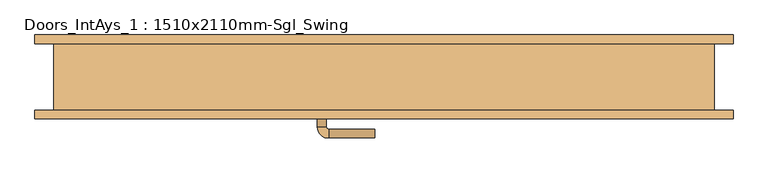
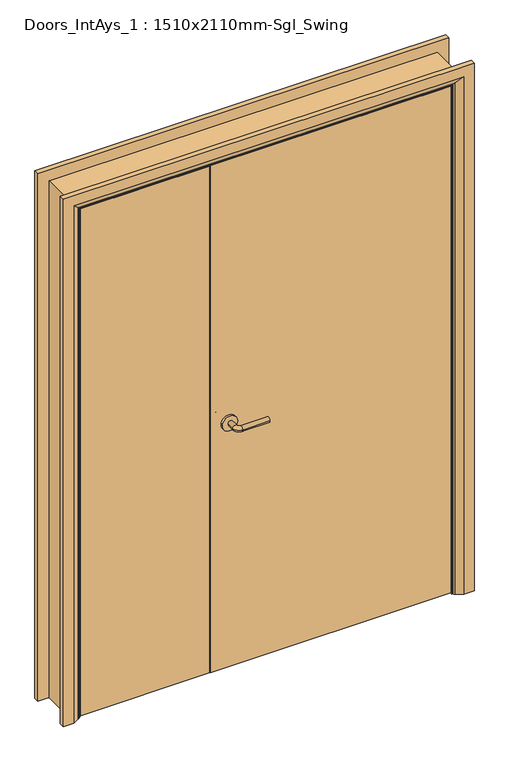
"""IFC4 building model written with IfcOpenShell, lengths in millimetres: door geometry, Doors_IntAys_1 : 1510x2110mm-Sgl_Swing."""

from ifc_helpers import new_model, si_unit, point, frame, frame_2d, origin, place, context, project, spatial, polyline, circle_curve, ellipse_curve, trimmed, segment, composite_curve, outline, extrude, faceted_brep, source, transform, mapped, element, save
from ifc_brep_helpers import plane_surface, cylinder_surface, revolved_surface, advanced_brep


def doors_intays_1_1510x2110mm_sgl_swing_36e02ed7(model_context):
    return source(origin(), model_context, "Body", "SolidModel", [
        advanced_brep(
        [(238.5, -35.0, 1000.0), (258.5, -35.0, 1000.0), (238.5, -5.0, 1000.0), (258.5, -5.0, 1000.0), (263.5, 0.0, 1000.0), (263.5, 20.0, 1000.0), (368.5, 20.0, 1000.0), (368.5, 0.0, 1000.0)],
        [
            (0, 1, circle_curve(frame((248.5, -35.0, 1000.0), z_axis=(0.0, -1.0, 0.0), x_axis=(1.0, 0.0, 0.0)), 10.0)),
            (1, 0, circle_curve(frame((248.5, -35.0, 1000.0), z_axis=(0.0, -1.0, 0.0), x_axis=(1.0, 0.0, 0.0)), 10.0)),
            (0, 2),
            (2, 3, circle_curve(frame((248.5, -5.0, 1000.0), z_axis=(0.0, -1.0, 0.0), x_axis=(1.0, 0.0, 0.0)), 10.0)),
            (3, 1),
            (3, 2, circle_curve(frame((248.5, -5.0, 1000.0), z_axis=(0.0, -1.0, 0.0), x_axis=(1.0, 0.0, 0.0)), 10.0)),
            (4, 3, circle_curve(frame((263.5, -5.0, 1000.0), z_axis=(0.0, 0.0, 1.0), x_axis=(-1.0, 0.0, 0.0)), 5.0)),
            (2, 5, circle_curve(frame((263.5, -5.0, 1000.0), z_axis=(0.0, 0.0, -1.0), x_axis=(-1.0, 0.0, 0.0)), 25.0)),
            (5, 4, circle_curve(frame((263.5, 10.0, 1000.0), z_axis=(-1.0, 0.0, 0.0), x_axis=(0.0, -1.0, 0.0)), 10.0)),
            (4, 5, circle_curve(frame((263.5, 10.0, 1000.0), z_axis=(-1.0, 0.0, 0.0), x_axis=(0.0, -1.0, 0.0)), 10.0)),
            (6, 7, circle_curve(frame((368.5, 10.0, 1000.0), z_axis=(1.0, 0.0, 0.0), x_axis=(0.0, -1.0, 0.0)), 10.0)),
            (7, 6, circle_curve(frame((368.5, 10.0, 1000.0), z_axis=(1.0, 0.0, 0.0), x_axis=(0.0, -1.0, 0.0)), 10.0)),
            (5, 6),
            (7, 4),
        ],
        [
            plane_surface(frame((248.5, -35.0, 1000.0), z_axis=(0.0, -1.0, 0.0), x_axis=(0.0, 0.0, 1.0))),
            cylinder_surface(frame((248.5, -35.0, 1000.0), z_axis=(0.0, -1.0, 0.0), x_axis=(1.0, 0.0, 0.0)), 10.0),
            revolved_surface(trimmed(ellipse_curve(frame((248.5, -5.0, 1000.0), z_axis=(0.0, -1.0, 0.0), x_axis=(1.0, 0.0, 0.0)), 10.0, 10.0), [point((238.5, -5.0, 1000.0))], [point((258.5, -5.0, 1000.0))], True, "CARTESIAN"), (263.5, -5.0, 1000.0), (0.0, 0.0, -1.0)),
            revolved_surface(trimmed(ellipse_curve(frame((248.5, -5.0, 1000.0), z_axis=(0.0, -1.0, 0.0), x_axis=(1.0, 0.0, 0.0)), 10.0, 10.0), [point((258.5, -5.0, 1000.0))], [point((238.5, -5.0, 1000.0))], True, "CARTESIAN"), (263.5, -5.0, 1000.0), (0.0, 0.0, -1.0)),
            plane_surface(frame((368.5, 10.0, 1000.0), z_axis=(1.0, 0.0, 0.0), x_axis=(0.0, 0.0, 1.0))),
            cylinder_surface(frame((263.5, 10.0, 1000.0), z_axis=(-1.0, 0.0, 0.0), x_axis=(0.0, -1.0, 0.0)), 10.0),
        ],
        [
            (0, [[1, 2]]),
            (1, [[-1, 3, 4, 5]]),
            (1, [[-2, -5, 6, -3]]),
            (2, [[7, -4, 8, 9]]),
            (3, [[-8, -6, -7, 10]]),
            (4, [[11, 12]]),
            (5, [[-9, 13, -12, 14]]),
            (5, [[-10, -14, -11, -13]]),
        ],
    ),
        extrude(outline(composite_curve([segment(trimmed(circle_curve(frame_2d((1000.0, 246.0)), 30.0), [point((1000.0, 216.0))], [point((1000.0, 276.0))], False, "CARTESIAN"), True, "CONTINUOUS"), segment(trimmed(circle_curve(frame_2d((1000.0, 246.0)), 30.0), [point((1000.0, 276.0))], [point((1000.0, 216.0))], False, "CARTESIAN"), True, "CONTINUOUS")], self_intersect=False)), frame((0.0, -43.0, 0.0), z_axis=(0.0, 1.0, 0.0), x_axis=(0.0, 0.0, 1.0)), (0.0, 0.0, 1.0), 8.0),
        advanced_brep(
        [(238.5, -83.0, 1000.0), (258.5, -83.0, 1000.0), (258.5, -113.0, 1000.0), (238.5, -113.0, 1000.0), (263.5, -118.0, 1000.0), (263.5, -138.0, 1000.0), (368.5, -138.0, 1000.0), (368.5, -118.0, 1000.0)],
        [
            (0, 1, circle_curve(frame((248.5, -83.0, 1000.0), z_axis=(0.0, 1.0, 0.0), x_axis=(1.0, 0.0, 0.0)), 10.0)),
            (1, 0, circle_curve(frame((248.5, -83.0, 1000.0), z_axis=(0.0, 1.0, 0.0), x_axis=(1.0, 0.0, 0.0)), 10.0)),
            (1, 2),
            (2, 3, circle_curve(frame((248.5, -113.0, 1000.0), z_axis=(0.0, 1.0, 0.0), x_axis=(1.0, 0.0, 0.0)), 10.0)),
            (3, 0),
            (3, 2, circle_curve(frame((248.5, -113.0, 1000.0), z_axis=(0.0, 1.0, 0.0), x_axis=(1.0, 0.0, 0.0)), 10.0)),
            (4, 5, circle_curve(frame((263.5, -128.0, 1000.0), z_axis=(-1.0, 0.0, 0.0), x_axis=(0.0, 1.0, 0.0)), 10.0)),
            (5, 3, circle_curve(frame((263.5, -113.0, 1000.0), z_axis=(0.0, 0.0, -1.0), x_axis=(-1.0, 0.0, 0.0)), 25.0)),
            (2, 4, circle_curve(frame((263.5, -113.0, 1000.0), z_axis=(0.0, 0.0, 1.0), x_axis=(-1.0, 0.0, 0.0)), 5.0)),
            (5, 4, circle_curve(frame((263.5, -128.0, 1000.0), z_axis=(-1.0, 0.0, 0.0), x_axis=(0.0, 1.0, 0.0)), 10.0)),
            (6, 7, circle_curve(frame((368.5, -128.0, 1000.0), z_axis=(1.0, 0.0, 0.0), x_axis=(0.0, 1.0, 0.0)), 10.0)),
            (7, 6, circle_curve(frame((368.5, -128.0, 1000.0), z_axis=(1.0, 0.0, 0.0), x_axis=(0.0, 1.0, 0.0)), 10.0)),
            (4, 7),
            (6, 5),
        ],
        [
            plane_surface(frame((248.5, -83.0, 1000.0), z_axis=(0.0, 1.0, 0.0), x_axis=(0.0, 0.0, 1.0))),
            cylinder_surface(frame((248.5, -83.0, 1000.0), z_axis=(0.0, 1.0, 0.0), x_axis=(1.0, 0.0, 0.0)), 10.0),
            revolved_surface(trimmed(ellipse_curve(frame((248.5, -113.0, 1000.0), z_axis=(0.0, -1.0, 0.0), x_axis=(1.0, 0.0, 0.0)), 10.0, 10.0), [point((238.5, -113.0, 1000.0))], [point((258.5, -113.0, 1000.0))], True, "CARTESIAN"), (263.5, -113.0, 1000.0), (0.0, 0.0, -1.0)),
            revolved_surface(trimmed(ellipse_curve(frame((248.5, -113.0, 1000.0), z_axis=(0.0, -1.0, 0.0), x_axis=(1.0, 0.0, 0.0)), 10.0, 10.0), [point((258.5, -113.0, 1000.0))], [point((238.5, -113.0, 1000.0))], True, "CARTESIAN"), (263.5, -113.0, 1000.0), (0.0, 0.0, -1.0)),
            plane_surface(frame((368.5, -128.0, 1000.0), z_axis=(1.0, 0.0, 0.0), x_axis=(0.0, 0.0, 1.0))),
            cylinder_surface(frame((263.5, -128.0, 1000.0), z_axis=(-1.0, 0.0, 0.0), x_axis=(0.0, 1.0, 0.0)), 10.0),
        ],
        [
            (0, [[1, 2]]),
            (1, [[3, 4, 5, -2]]),
            (1, [[-5, 6, -3, -1]]),
            (2, [[7, 8, -4, 9]]),
            (3, [[10, -9, -6, -8]]),
            (4, [[11, 12]]),
            (5, [[13, -11, 14, -7]]),
            (5, [[-14, -12, -13, -10]]),
        ],
    ),
        extrude(outline(composite_curve([segment(trimmed(circle_curve(frame_2d((1000.0, 246.0)), 30.0), [point((1000.0, 216.0))], [point((1000.0, 276.0))], False, "CARTESIAN"), True, "CONTINUOUS"), segment(trimmed(circle_curve(frame_2d((1000.0, 246.0)), 30.0), [point((1000.0, 276.0))], [point((1000.0, 216.0))], False, "CARTESIAN"), True, "CONTINUOUS")], self_intersect=False)), frame((0.0, -83.0, 0.0), z_axis=(0.0, 1.0, 0.0), x_axis=(0.0, 0.0, 1.0)), (0.0, 0.0, 1.0), 8.0),
        advanced_brep(
        [(-401.0, 95.0, 0.0), (-361.0, 95.0, 0.0), (-335.0, 81.0, 0.0), (-331.0, 75.0, 0.0), (-401.0, 75.0, 0.0), (-401.0, 75.0, 2145.0), (-401.0, 95.0, 2145.0), (-331.0, 75.0, 2075.0), (1109.0, 75.0, 2075.0), (1109.0, 75.0, 0.0), (1179.0, 75.0, 0.0), (1179.0, 75.0, 2145.0), (-335.0, 81.0, 2079.0), (-361.0, 95.0, 2105.0), (1179.0, 95.0, 2145.0), (1179.0, 95.0, 0.0), (1139.0, 95.0, 0.0), (1139.0, 95.0, 2105.0), (1113.0, 81.0, 0.0), (1113.0, 81.0, 2079.0)],
        [
            (0, 1),
            (1, 2),
            (2, 3, circle_curve(frame((-339.0, 74.0, 0.0), z_axis=(0.0, 0.0, -1.0), x_axis=(-1.0, 0.0, 0.0)), 8.0622577)),
            (3, 4),
            (4, 0),
            (4, 5),
            (5, 6),
            (6, 0),
            (3, 7),
            (7, 8),
            (8, 9),
            (9, 10),
            (10, 11),
            (11, 5),
            (2, 12),
            (12, 7, ellipse_curve(frame((-339.0, 74.0, 2083.0), z_axis=(-0.7071067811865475, 0.0, -0.7071067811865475), x_axis=(0.7071067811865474, 0.0, -0.7071067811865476)), 11.4017543, 8.0622577)),
            (1, 13),
            (13, 12),
            (6, 14),
            (14, 15),
            (15, 16),
            (16, 17),
            (17, 13),
            (10, 15),
            (14, 11),
            (9, 18, circle_curve(frame((1117.0, 74.0, 0.0), z_axis=(0.0, 0.0, -1.0), x_axis=(1.0, 0.0, 0.0)), 8.0622577)),
            (18, 16),
            (19, 18),
            (8, 19, ellipse_curve(frame((1117.0, 74.0, 2083.0), z_axis=(0.7071067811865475, 0.0, -0.7071067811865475), x_axis=(0.7071067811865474, 0.0, 0.7071067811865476)), 11.4017543, 8.0622577)),
            (19, 17),
            (12, 19),
        ],
        [
            plane_surface(frame((-331.0, 75.0, 0.0), z_axis=(0.0, 0.0, -1.0), x_axis=(0.0, 1.0, 0.0))),
            plane_surface(frame((-401.0, 95.0, 0.0), z_axis=(-1.0, 0.0, 0.0), x_axis=(0.0, 0.0, 1.0))),
            plane_surface(frame((-401.0, 75.0, 0.0), z_axis=(0.0, -1.0, 0.0), x_axis=(0.0, 0.0, 1.0))),
            cylinder_surface(frame((-339.0, 74.0, 0.0), z_axis=(0.0, 0.0, -1.0), x_axis=(-1.0, 0.0, 0.0)), 8.0622577),
            plane_surface(frame((-335.0, 81.0, 0.0), z_axis=(0.4740998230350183, 0.8804710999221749, 0.0), x_axis=(0.0, 0.0, 1.0))),
            plane_surface(frame((-361.0, 95.0, 0.0), z_axis=(0.0, 1.0, 0.0), x_axis=(0.0, 0.0, 1.0))),
            plane_surface(frame((1179.0, 95.0, 2145.0), z_axis=(1.0, 0.0, 0.0), x_axis=(0.0, 0.0, -1.0))),
            plane_surface(frame((1109.0, 75.0, 0.0), z_axis=(0.0, 0.0, -1.0), x_axis=(0.0, 1.0, 0.0))),
            cylinder_surface(frame((1117.0, 74.0, 2075.0), z_axis=(0.0, 0.0, 1.0), x_axis=(1.0, 0.0, 0.0)), 8.0622577),
            plane_surface(frame((1113.0, 81.0, 2079.0), z_axis=(-0.4740998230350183, 0.8804710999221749, 0.0), x_axis=(0.0, 0.0, -1.0))),
            plane_surface(frame((-401.0, 95.0, 2145.0), z_axis=(0.0, 0.0, 1.0), x_axis=(1.0, 0.0, 0.0))),
            cylinder_surface(frame((-331.0, 74.0, 2083.0), z_axis=(-1.0, 0.0, 0.0), x_axis=(0.0, 0.0, 1.0)), 8.0622577),
            plane_surface(frame((-335.0, 81.0, 2079.0), z_axis=(0.0, 0.8804710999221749, -0.4740998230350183), x_axis=(1.0, 0.0, 0.0))),
        ],
        [
            (0, [[1, 2, 3, 4, 5]]),
            (1, [[6, 7, 8, -5]]),
            (2, [[9, 10, 11, 12, 13, 14, -6, -4]]),
            (3, [[15, 16, -9, -3]]),
            (4, [[17, 18, -15, -2]]),
            (5, [[-8, 19, 20, 21, 22, 23, -17, -1]]),
            (6, [[-13, 24, -20, 25]]),
            (7, [[-24, -12, 26, 27, -21]]),
            (8, [[28, -26, -11, 29]]),
            (9, [[-22, -27, -28, 30]]),
            (10, [[-14, -25, -19, -7]]),
            (11, [[31, -29, -10, -16]]),
            (12, [[-23, -30, -31, -18]]),
        ],
    ),
        advanced_brep(
        [(1179.0, -95.0, 0.0), (1139.0, -95.0, 0.0), (1113.0, -81.0, 0.0), (1109.0, -75.0, 0.0), (1179.0, -75.0, 0.0), (1179.0, -75.0, 2145.0), (1179.0, -95.0, 2145.0), (1109.0, -75.0, 2075.0), (-331.0, -75.0, 2075.0), (-331.0, -75.0, 0.0), (-401.0, -75.0, 0.0), (-401.0, -75.0, 2145.0), (1113.0, -81.0, 2079.0), (1139.0, -95.0, 2105.0), (-401.0, -95.0, 2145.0), (-401.0, -95.0, 0.0), (-361.0, -95.0, 0.0), (-361.0, -95.0, 2105.0), (-335.0, -81.0, 0.0), (-335.0, -81.0, 2079.0)],
        [
            (0, 1),
            (1, 2),
            (2, 3, circle_curve(frame((1117.0, -74.0, 0.0), z_axis=(0.0, 0.0, -1.0), x_axis=(1.0, 0.0, 0.0)), 8.0622577)),
            (3, 4),
            (4, 0),
            (4, 5),
            (5, 6),
            (6, 0),
            (3, 7),
            (7, 8),
            (8, 9),
            (9, 10),
            (10, 11),
            (11, 5),
            (2, 12),
            (12, 7, ellipse_curve(frame((1117.0, -74.0, 2083.0), z_axis=(0.7071067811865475, 0.0, -0.7071067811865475), x_axis=(-0.7071067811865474, 0.0, -0.7071067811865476)), 11.4017543, 8.0622577)),
            (1, 13),
            (13, 12),
            (6, 14),
            (14, 15),
            (15, 16),
            (16, 17),
            (17, 13),
            (10, 15),
            (14, 11),
            (9, 18, circle_curve(frame((-339.0, -74.0, 0.0), z_axis=(0.0, 0.0, -1.0), x_axis=(-1.0, 0.0, 0.0)), 8.0622577)),
            (18, 16),
            (19, 18),
            (8, 19, ellipse_curve(frame((-339.0, -74.0, 2083.0), z_axis=(-0.7071067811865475, 0.0, -0.7071067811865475), x_axis=(-0.7071067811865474, 0.0, 0.7071067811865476)), 11.4017543, 8.0622577)),
            (19, 17),
            (12, 19),
        ],
        [
            plane_surface(frame((1109.0, -75.0, 0.0), z_axis=(0.0, 0.0, -1.0), x_axis=(0.0, 1.0, 0.0))),
            plane_surface(frame((1179.0, -95.0, 0.0), z_axis=(1.0, 0.0, 0.0), x_axis=(0.0, 0.0, 1.0))),
            plane_surface(frame((1179.0, -75.0, 0.0), z_axis=(0.0, 1.0, 0.0), x_axis=(0.0, 0.0, 1.0))),
            cylinder_surface(frame((1117.0, -74.0, 0.0), z_axis=(0.0, 0.0, -1.0), x_axis=(1.0, 0.0, 0.0)), 8.0622577),
            plane_surface(frame((1113.0, -81.0, 0.0), z_axis=(-0.4740998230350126, -0.8804710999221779, 0.0), x_axis=(0.0, 0.0, 1.0))),
            plane_surface(frame((1139.0, -95.0, 0.0), z_axis=(0.0, -1.0, 0.0), x_axis=(0.0, 0.0, 1.0))),
            plane_surface(frame((-401.0, -95.0, 2145.0), z_axis=(-1.0, 0.0, 0.0), x_axis=(0.0, 0.0, -1.0))),
            plane_surface(frame((-331.0, -75.0, 0.0), z_axis=(0.0, 0.0, -1.0), x_axis=(0.0, 1.0, 0.0))),
            cylinder_surface(frame((-339.0, -74.0, 2075.0), z_axis=(0.0, 0.0, 1.0), x_axis=(-1.0, 0.0, 0.0)), 8.0622577),
            plane_surface(frame((-335.0, -81.0, 2079.0), z_axis=(0.4740998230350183, -0.8804710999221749, 0.0), x_axis=(0.0, 0.0, -1.0))),
            plane_surface(frame((1179.0, -95.0, 2145.0), z_axis=(0.0, 0.0, 1.0), x_axis=(-1.0, 0.0, 0.0))),
            cylinder_surface(frame((1109.0, -74.0, 2083.0), z_axis=(1.0, 0.0, 0.0), x_axis=(0.0, 0.0, 1.0)), 8.0622577),
            plane_surface(frame((1113.0, -81.0, 2079.0), z_axis=(0.0, -0.8804710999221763, -0.4740998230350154), x_axis=(-1.0, 0.0, 0.0))),
        ],
        [
            (0, [[1, 2, 3, 4, 5]]),
            (1, [[6, 7, 8, -5]]),
            (2, [[9, 10, 11, 12, 13, 14, -6, -4]]),
            (3, [[15, 16, -9, -3]]),
            (4, [[17, 18, -15, -2]]),
            (5, [[-8, 19, 20, 21, 22, 23, -17, -1]]),
            (6, [[-13, 24, -20, 25]]),
            (7, [[-24, -12, 26, 27, -21]]),
            (8, [[28, -26, -11, 29]]),
            (9, [[-22, -27, -28, 30]]),
            (10, [[-14, -25, -19, -7]]),
            (11, [[31, -29, -10, -16]]),
            (12, [[-23, -30, -31, -18]]),
        ],
    ),
        faceted_brep([(-307.0, -40.0, 0.0), (-326.0, -40.0, 0.0), (-326.0, -8.0, 0.0), (-307.0, -8.0, 0.0), (-307.0, -8.0, 2051.0), (-307.0, -40.0, 2051.0), (-326.0, -8.0, 2070.0), (-326.0, -40.0, 2070.0), (1085.0, -40.0, 0.0), (1085.0, -8.0, 0.0), (1104.0, -8.0, 0.0), (1104.0, -40.0, 0.0), (1085.0, -40.0, 2051.0), (1104.0, -40.0, 2070.0), (1104.0, -8.0, 2070.0), (1085.0, -8.0, 2051.0)], [[[0, 1, 2, 3]], [[3, 4, 5, 0]], [[2, 6, 4, 3]], [[1, 7, 6, 2]], [[0, 5, 7, 1]], [[8, 9, 10, 11]], [[12, 8, 11, 13]], [[13, 11, 10, 14]], [[14, 10, 9, 15]], [[15, 9, 8, 12]], [[4, 15, 12, 5]], [[6, 14, 15, 4]], [[7, 13, 14, 6]], [[5, 12, 13, 7]]]),
        extrude(outline(polyline([(2102.0, -358.0), (0.0, -358.0), (0.0, -326.0), (2070.0, -326.0), (2070.0, 1104.0), (0.0, 1104.0), (0.0, 1136.0), (2102.0, 1136.0), (2102.0, -358.0)])), frame((0.0, -75.0, 0.0), z_axis=(0.0, 1.0, 0.0), x_axis=(0.0, 0.0, 1.0)), (0.0, 0.0, 1.0), 150.0),
        extrude(outline(polyline([(172.0, -43.0), (172.0, -75.0), (-323.0, -75.0), (-323.0, -43.0), (172.0, -43.0)])), frame((0.0, 0.0, 5.753223), z_axis=(0.0, 0.0, 1.0), x_axis=(1.0, 0.0, 0.0)), (0.0, 0.0, 1.0), 2061.246777),
        extrude(outline(polyline([(1101.0, -43.0), (1101.0, -75.0), (175.0, -75.0), (175.0, -43.0), (1101.0, -43.0)])), frame((0.0, 0.0, 5.753223), z_axis=(0.0, 0.0, 1.0), x_axis=(1.0, 0.0, 0.0)), (0.0, 0.0, 1.0), 2061.246777),
    ])


if __name__ == "__main__":
    model = new_model("IFC4")
    model_context = context("Model", 3, world=origin())
    ifc_project = project(units=[si_unit("LENGTHUNIT", "METRE", prefix="MILLI")], contexts=[model_context])
    site = spatial("IfcSite", under=ifc_project)
    building = spatial("IfcBuilding", under=site)
    placement = place(None, origin())
    doors_intays_1_1510x2110mm_sgl_swing_shape = doors_intays_1_1510x2110mm_sgl_swing_36e02ed7(model_context)
    element("IfcDoor", 1, ObjectType="Doors_IntAys_1 : 1510x2110mm-Sgl_Swing", at=placement, inside=building, context=model_context, shape_type="MappedRepresentation", body=[
        mapped(doors_intays_1_1510x2110mm_sgl_swing_shape, transform((0.0, 0.0, 0.0), x_axis=(1.0, 0.0, 0.0), y_axis=(0.0, 1.0, 0.0), z_axis=(0.0, 0.0, 1.0))),
    ])
    save(model, "model.ifc")
